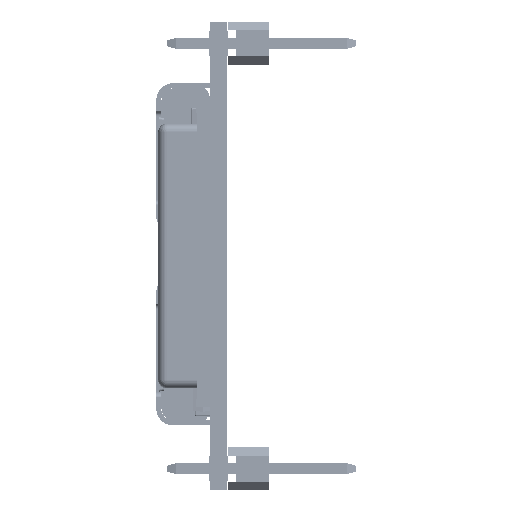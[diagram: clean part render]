
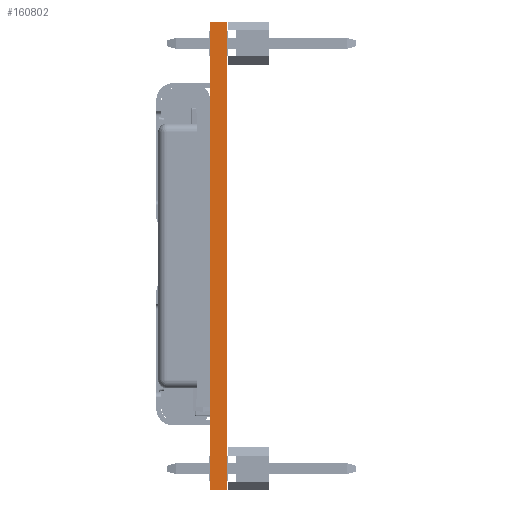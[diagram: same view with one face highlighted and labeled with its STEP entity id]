
A CAD part, left-side view. The second image highlights one B-rep face of the part: STEP entity #160802.
In plain terms, the highlighted planar face has unit normal (-1, 0, 0).
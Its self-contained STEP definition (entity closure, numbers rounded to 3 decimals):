
#21275=FACE_OUTER_BOUND('',#30612,.T.);
#30612=EDGE_LOOP('',(#128180,#128181,#128182,#128183));
#35965=LINE('',#204098,#50594);
#39197=LINE('',#240764,#53826);
#41932=LINE('',#272337,#56561);
#41933=LINE('',#272338,#56562);
#50594=VECTOR('',#173571,10.);
#53826=VECTOR('',#178385,10.);
#56561=VECTOR('',#182514,10.);
#56562=VECTOR('',#182515,10.);
#65290=VERTEX_POINT('',#204091);
#65293=VERTEX_POINT('',#204096);
#69394=VERTEX_POINT('',#240760);
#69396=VERTEX_POINT('',#240763);
#81165=EDGE_CURVE('',#65293,#65290,#35965,.T.);
#87295=EDGE_CURVE('',#69396,#69394,#39197,.T.);
#92540=EDGE_CURVE('',#69394,#65290,#41932,.T.);
#92541=EDGE_CURVE('',#69396,#65293,#41933,.T.);
#128180=ORIENTED_EDGE('',*,*,#87295,.T.);
#128181=ORIENTED_EDGE('',*,*,#92540,.T.);
#128182=ORIENTED_EDGE('',*,*,#81165,.F.);
#128183=ORIENTED_EDGE('',*,*,#92541,.F.);
#153607=PLANE('',#168058);
#160802=ADVANCED_FACE('',(#21275),#153607,.T.);
#168058=AXIS2_PLACEMENT_3D('',#272336,#182512,#182513);
#173571=DIRECTION('',(0.,0.,-1.));
#178385=DIRECTION('',(0.,0.,-1.));
#182512=DIRECTION('center_axis',(-1.,0.,0.));
#182513=DIRECTION('ref_axis',(0.,0.,-1.));
#182514=DIRECTION('',(0.,-1.,0.));
#182515=DIRECTION('',(0.,-1.,0.));
#204091=CARTESIAN_POINT('',(-28.575,-1.,-13.97));
#204096=CARTESIAN_POINT('',(-28.575,-1.,13.97));
#204098=CARTESIAN_POINT('',(-28.575,-1.,13.97));
#240760=CARTESIAN_POINT('',(-28.575,0.,-13.97));
#240763=CARTESIAN_POINT('',(-28.575,0.,13.97));
#240764=CARTESIAN_POINT('',(-28.575,0.,13.97));
#272336=CARTESIAN_POINT('Origin',(-28.575,0.,13.97));
#272337=CARTESIAN_POINT('',(-28.575,0.,-13.97));
#272338=CARTESIAN_POINT('',(-28.575,0.,13.97));
